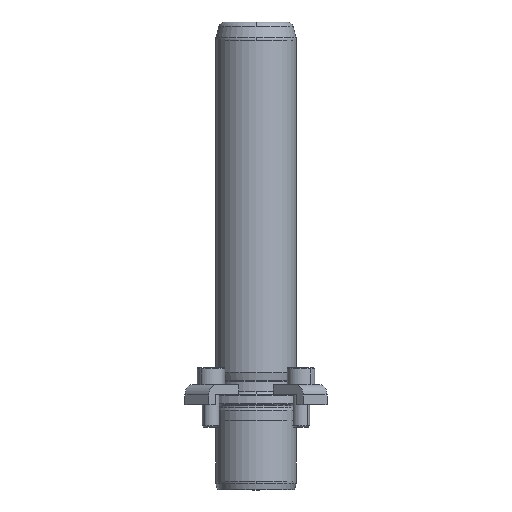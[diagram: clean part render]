
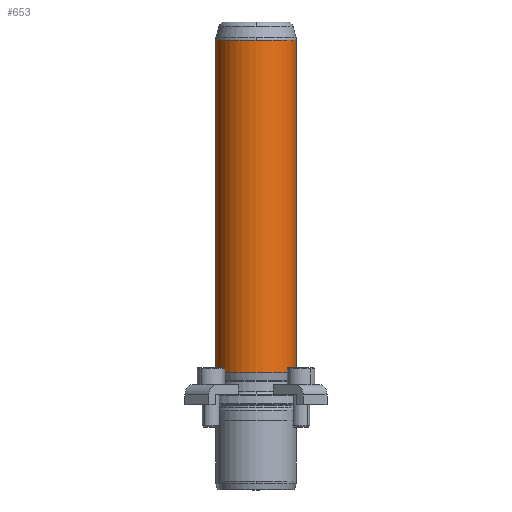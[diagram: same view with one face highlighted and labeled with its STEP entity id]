
A CAD part, front view. The second image highlights one B-rep face of the part: STEP entity #653.
In plain terms, the highlighted cylindrical face has radius 19 mm (diameter 38 mm), a partial arc.
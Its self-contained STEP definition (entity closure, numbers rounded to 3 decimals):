
#566=CARTESIAN_POINT('',(0.0,-19.,171.342));
#567=VERTEX_POINT('',#566);
#594=CARTESIAN_POINT('',(-19.0,0.,171.342));
#595=VERTEX_POINT('',#594);
#603=CARTESIAN_POINT('',(0.0,0.,171.342));
#604=DIRECTION('',(0.0,0.0,1.0));
#605=DIRECTION('',(1.0,0.0,0.0));
#606=AXIS2_PLACEMENT_3D('',#603,#604,#605);
#607=CIRCLE('',#606,19.0);
#608=EDGE_CURVE('',#595,#567,#607,.T.);
#613=CARTESIAN_POINT('',(0.0,0.,93.171));
#614=DIRECTION('',(0.0,0.,1.0));
#615=DIRECTION('',(1.0,0.0,0.0));
#616=AXIS2_PLACEMENT_3D('',#613,#614,#615);
#617=CYLINDRICAL_SURFACE('',#616,19.0);
#618=CARTESIAN_POINT('',(19.0,0.,171.342));
#619=VERTEX_POINT('',#618);
#620=CARTESIAN_POINT('',(19.0,0.,15.0));
#621=VERTEX_POINT('',#620);
#622=CARTESIAN_POINT('',(19.0,0.,171.342));
#623=DIRECTION('',(0.0,0.0,-1.0));
#624=VECTOR('',#623,156.342);
#625=LINE('',#622,#624);
#626=EDGE_CURVE('',#619,#621,#625,.T.);
#627=ORIENTED_EDGE('',*,*,#626,.F.);
#628=CARTESIAN_POINT('',(0.0,0.,171.342));
#629=DIRECTION('',(0.0,0.0,1.0));
#630=DIRECTION('',(1.0,0.0,0.0));
#631=AXIS2_PLACEMENT_3D('',#628,#629,#630);
#632=CIRCLE('',#631,19.0);
#633=EDGE_CURVE('',#567,#619,#632,.T.);
#634=ORIENTED_EDGE('',*,*,#633,.F.);
#635=ORIENTED_EDGE('',*,*,#608,.F.);
#636=CARTESIAN_POINT('',(-19.0,0.,15.0));
#637=VERTEX_POINT('',#636);
#638=CARTESIAN_POINT('',(-19.0,0.,171.342));
#639=DIRECTION('',(0.0,0.0,-1.0));
#640=VECTOR('',#639,156.342);
#641=LINE('',#638,#640);
#642=EDGE_CURVE('',#595,#637,#641,.T.);
#643=ORIENTED_EDGE('',*,*,#642,.T.);
#644=CARTESIAN_POINT('',(0.0,0.,15.0));
#645=DIRECTION('',(0.0,0.0,1.0));
#646=DIRECTION('',(1.0,0.0,0.0));
#647=AXIS2_PLACEMENT_3D('',#644,#645,#646);
#648=CIRCLE('',#647,19.0);
#649=EDGE_CURVE('',#637,#621,#648,.T.);
#650=ORIENTED_EDGE('',*,*,#649,.T.);
#651=EDGE_LOOP('',(#627,#634,#635,#643,#650));
#652=FACE_OUTER_BOUND('',#651,.T.);
#653=ADVANCED_FACE('',(#652),#617,.T.);
